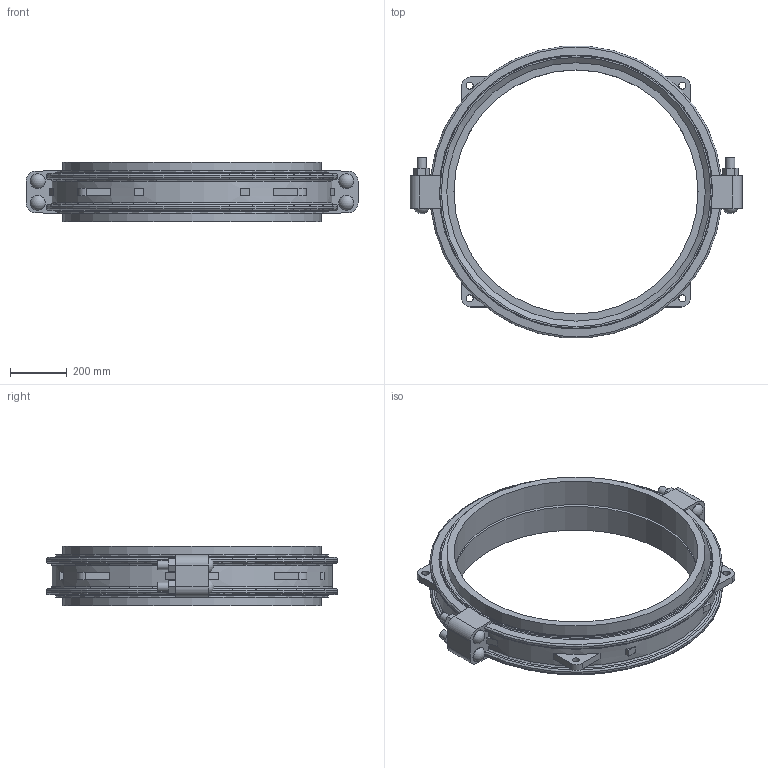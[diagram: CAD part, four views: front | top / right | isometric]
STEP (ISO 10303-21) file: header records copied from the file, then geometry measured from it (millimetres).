
FILE_DESCRIPTION(/* description */ ('VIC COUPLING FLEX STYLE W77 AGS VIC-RING ','CAx-IF Rec.Pracs.---Representation and Presentation of Product Manufacturing Information (PMI)---4.0---2014-10-13'),/* implementation_level */ '2;1');
FILE_NAME(/* name */ 'C:\Users\Vjadhav\AppData\Roaming\Autodesk\ApplicationPlugins\Victaulic.Temp\A52\Victaulic_Vic-Ring_Coupling Flexible_Style W77 (AGR)_36 (900).stp',/* time_stamp */ '2021-12-20T11:05:46+06:00',/* author */ ('Vjadhav'),/* organization */ ('Victaulic'),/* preprocessor_version */ 'ST-DEVELOPER v17.2',/* originating_system */ 'Autodesk Inventor 2019',/* authorisation */ '');
FILE_SCHEMA (('AP242_MANAGED_MODEL_BASED_3D_ENGINEERING_MIM_LF { 1 0 10303 442 1 1 4 }'));
Length unit declared in the file: inch
Products named in the file (3): W77 VR-36.0; W77 VR-36.0_1; W77 VR-36.0_2
Assembly tree (3 placements, depth 2):
  W77 VR-36.0
    W77 VR-36.0_1
    W77 VR-36.0_2  x2
Bounding box: 1174.75 x 1031.23 x 211.84 mm (x, y, z)
Volume: 37591666.3 mm3; surface area: 3026416.5 mm2
Topology: 3 solids, 7 shells, 187 faces, 491 edges, 340 vertices
Faces by surface type: plane 110, cylinder 47, torus 16, cone 10, sphere 4
Full cylindrical faces by diameter (mm): 25.4 x4, 31.75 x8, 53.162 x4, 863.6 x2, 895.35 x1, 914.4 x4, 964.184 x2
Entity records: 6491 total; most frequent: CARTESIAN_POINT 1514, DIRECTION 987, ORIENTED_EDGE 962, EDGE_CURVE 481, AXIS2_PLACEMENT_3D 365, VERTEX_POINT 332, LINE 257, VECTOR 257
